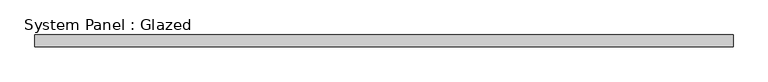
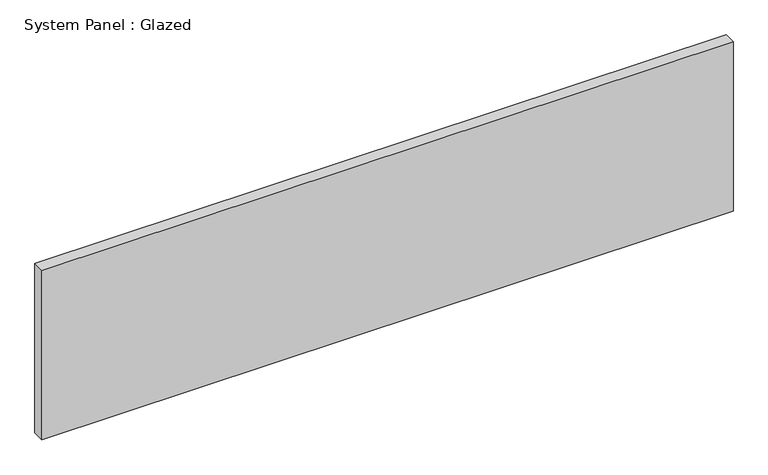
"""IFC4 building model written with IfcOpenShell, lengths in millimetres: plate geometry, System Panel : Glazed."""

import ifcopenshell
import ifcopenshell.guid

model = None  # the IFC model being written
_history = None  # IfcOwnerHistory: only IFC2X3 demands one
_inside = {}  # id of a spatial element -> (the spatial element, [elements in it])
_under = {}  # id of a project, library or spatial element -> (it, [spatial elements below it])
_declared = {}  # id of a project -> (the project, [libraries it declares])
_typed = {}  # id of a type object -> (the type object, [elements of that type])
_made_of = {}  # id of a material, layer set ... -> (it, [elements and type objects made of it])


def new_model(schema):
    """Start an empty IFC model of exactly this schema.

    Asked for "IFC4X3", IfcOpenShell would pick the latest addendum, in which some entities
    have other attributes; the version numbers below select the first issue.
    IFC2X3 requires an IfcOwnerHistory on every rooted entity: one is made here for all.
    """
    global model, _history
    if schema == "IFC4X3":
        model = ifcopenshell.file(schema_version=(4, 3, 0, 0))
    else:
        model = ifcopenshell.file(schema=schema)
    _inside.clear()
    _under.clear()
    _declared.clear()
    _typed.clear()
    _made_of.clear()
    _history = None
    if model.schema == "IFC2X3":
        org = make("IfcOrganization", Name="unknown")
        user = make(
            "IfcPersonAndOrganization",
            ThePerson=make("IfcPerson", FamilyName="unknown"),
            TheOrganization=org,
        )
        app = make(
            "IfcApplication",
            ApplicationDeveloper=org,
            Version="unknown",
            ApplicationFullName="unknown",
            ApplicationIdentifier="unknown",
        )
        _history = make(
            "IfcOwnerHistory",
            OwningUser=user,
            OwningApplication=app,
            ChangeAction="ADDED",
            CreationDate=0,
        )
    return model


def make(cls, **values):
    """One entity of the class cls with the attributes given. An attribute that is None is left unset."""
    return model.create_entity(
        cls, **{name: value for name, value in values.items() if value is not None}
    )


def rooted(cls, **values):
    """An entity with a GlobalId (a new one), such as an element, a storey or a relation."""
    return make(cls, GlobalId=ifcopenshell.guid.new(), OwnerHistory=_history, **values)


def si_unit(unit_type, name, prefix=None):
    """IfcSIUnit, for example si_unit("LENGTHUNIT", "METRE", prefix="MILLI")."""
    return make("IfcSIUnit", UnitType=unit_type, Prefix=prefix, Name=name)


def assignment(units):
    """IfcUnitAssignment: the units of a project."""
    return None if units is None else make("IfcUnitAssignment", Units=units)


def point(xyz):
    """IfcCartesianPoint."""
    return None if xyz is None else make("IfcCartesianPoint", Coordinates=xyz)


def direction(xyz):
    """IfcDirection."""
    return None if xyz is None else make("IfcDirection", DirectionRatios=xyz)


def frame(location, z_axis=None, x_axis=None):
    """IfcAxis2Placement3D, a coordinate frame: its origin and axes. An axis left out is left unset."""
    return make(
        "IfcAxis2Placement3D",
        Location=point(location),
        Axis=direction(z_axis),
        RefDirection=direction(x_axis),
    )


def origin():
    """The frame at (0, 0, 0) with its axes left unset."""
    return frame((0.0, 0.0, 0.0))


def origin_with_axes():
    """The frame at (0, 0, 0) with the z axis (0, 0, 1) and the x axis (1, 0, 0) written out."""
    return frame((0.0, 0.0, 0.0), z_axis=(0.0, 0.0, 1.0), x_axis=(1.0, 0.0, 0.0))


def place(relative_to, where):
    """IfcLocalPlacement: puts the frame where relative to a parent placement (None: the world)."""
    return make(
        "IfcLocalPlacement", PlacementRelTo=relative_to, RelativePlacement=where
    )


def context(
    kind, dimensions, precision=None, world=None, true_north=None, identifier=None
):
    """IfcGeometricRepresentationContext, for example the 3D "Model" context."""
    return make(
        "IfcGeometricRepresentationContext",
        ContextIdentifier=identifier,
        ContextType=kind,
        CoordinateSpaceDimension=dimensions,
        Precision=precision,
        WorldCoordinateSystem=world,
        TrueNorth=true_north,
    )


def project(units=None, contexts=None):
    """IfcProject with its units and contexts."""
    return rooted(
        "IfcProject",
        Name="project",
        RepresentationContexts=contexts,
        UnitsInContext=assignment(units),
    )


def spatial(cls, under=None, at=None, **own):
    """A site, building, storey or space (cls), placed at a placement, below another one or the project."""
    s = rooted(cls, ObjectPlacement=at, **own)
    if under is not None:
        _under.setdefault(under.id(), (under, []))[1].append(s)
    return s


def polyline(points):
    """IfcPolyline through the points."""
    return make("IfcPolyline", Points=[point(p) for p in points])


def outline(outer, holes=None, kind="AREA"):
    """IfcArbitraryClosedProfileDef: a profile drawn as a closed curve; with holes, ...WithVoids."""
    if holes is None:
        return make("IfcArbitraryClosedProfileDef", ProfileType=kind, OuterCurve=outer)
    return make(
        "IfcArbitraryProfileDefWithVoids",
        ProfileType=kind,
        OuterCurve=outer,
        InnerCurves=holes,
    )


def extrude(swept, where, along, depth):
    """IfcExtrudedAreaSolid: the profile swept, set in the frame where, extruded along a direction by depth."""
    return make(
        "IfcExtrudedAreaSolid",
        SweptArea=swept,
        Position=where,
        ExtrudedDirection=direction(along),
        Depth=depth,
    )


def shape(context_of_items, identifier, shape_type, items):
    """IfcShapeRepresentation: the items that make up one representation, for example the "Body"."""
    return make(
        "IfcShapeRepresentation",
        ContextOfItems=context_of_items,
        RepresentationIdentifier=identifier,
        RepresentationType=shape_type,
        Items=items,
    )


def source(mapping_origin, context_of_items, identifier, shape_type, items):
    """IfcRepresentationMap: a shape defined once, which mapped items show again and again."""
    return make(
        "IfcRepresentationMap",
        MappingOrigin=mapping_origin,
        MappedRepresentation=shape(context_of_items, identifier, shape_type, items),
    )


def transform(
    local_origin,
    x_axis=None,
    y_axis=None,
    z_axis=None,
    scale=None,
    scale2=None,
    scale3=None,
    uniform=True,
):
    """IfcCartesianTransformationOperator3D, or its non-uniform kind. x_axis, y_axis, z_axis: its Axis1, 2, 3."""
    if uniform:
        return make(
            "IfcCartesianTransformationOperator3D",
            Axis1=direction(x_axis),
            Axis2=direction(y_axis),
            LocalOrigin=point(local_origin),
            Scale=scale,
            Axis3=direction(z_axis),
        )
    return make(
        "IfcCartesianTransformationOperator3DnonUniform",
        Axis1=direction(x_axis),
        Axis2=direction(y_axis),
        LocalOrigin=point(local_origin),
        Scale=scale,
        Axis3=direction(z_axis),
        Scale2=scale2,
        Scale3=scale3,
    )


def mapped(mapping_source, mapping_target):
    """IfcMappedItem: shows the shape of a source again, moved by a transform."""
    return make(
        "IfcMappedItem", MappingSource=mapping_source, MappingTarget=mapping_target
    )


def made_of(thing, what):
    """Note that an element or type object is made of a material, layer set ...; save() writes the relation."""
    if what is not None:
        _made_of.setdefault(what.id(), (what, []))[1].append(thing)
    return thing


def element(
    cls,
    number,
    at=None,
    inside=None,
    cuts=None,
    type_object=None,
    material=None,
    context=None,
    identifier="Body",
    shape_type=None,
    held_by="IfcProductDefinitionShape",
    body=None,
    shapes=None,
    **own,
):
    """One element of the class cls, such as IfcWall. Its Tag is "e" and its number.

    at: its placement. inside: the storey or other place that contains it. cuts: it is an
    opening in that element (IfcRelVoidsElement). A single representation is given by context,
    identifier, shape_type and body (its items); several are given by shapes. held_by: the class
    of the entity that holds the representations. save() writes the other relations.
    """
    e = rooted(cls, Tag="e%d" % number, ObjectPlacement=at, **own)
    if body is not None:
        shapes = [shape(context, identifier, shape_type, body)]
    if shapes is not None:
        e.Representation = make(held_by, Representations=shapes)
    if inside is not None:
        _inside.setdefault(inside.id(), (inside, []))[1].append(e)
    if cuts is not None:
        rooted(
            "IfcRelVoidsElement", RelatingBuildingElement=cuts, RelatedOpeningElement=e
        )
    if type_object is not None:
        _typed.setdefault(type_object.id(), (type_object, []))[1].append(e)
    return made_of(e, material)


def aggregate(whole, parts):
    """IfcRelAggregates: a whole, such as a stair, and the parts it consists of."""
    return rooted("IfcRelAggregates", RelatingObject=whole, RelatedObjects=parts)


def save(model, path):
    """Write the relations noted so far, then the file.

    IfcRelAggregates (storeys below a building ...), IfcRelContainedInSpatialStructure (elements
    in a storey), IfcRelDefinesByType, IfcRelAssociatesMaterial and IfcRelDeclares: one each for
    every whole, place, type object, material and project.
    """
    for whole, parts in _under.values():
        aggregate(whole, parts)
    for where, things in _inside.values():
        rooted(
            "IfcRelContainedInSpatialStructure",
            RelatedElements=things,
            RelatingStructure=where,
        )
    for kind, things in _typed.values():
        rooted("IfcRelDefinesByType", RelatedObjects=things, RelatingType=kind)
    for what, things in _made_of.values():
        rooted("IfcRelAssociatesMaterial", RelatedObjects=things, RelatingMaterial=what)
    for by, libraries in _declared.values():
        rooted("IfcRelDeclares", RelatingContext=by, RelatedDefinitions=libraries)
    model.write(path)


def system_panel_glazed_e86309c8(model_context):
    return source(origin(), model_context, "Body", "SweptSolid", [
        extrude(outline(polyline([(736.9999999, -49.5), (-736.9999999, -49.5), (-736.9999999, -24.5), (736.9999999, -24.5), (736.9999999, -49.5)])), origin_with_axes(), (0.0, 0.0, 1.0), 382.2),
    ])


if __name__ == "__main__":
    model = new_model("IFC4")
    model_context = context("Model", 3, world=origin())
    ifc_project = project(units=[si_unit("LENGTHUNIT", "METRE", prefix="MILLI")], contexts=[model_context])
    site = spatial("IfcSite", under=ifc_project)
    building = spatial("IfcBuilding", under=site)
    placement = place(None, origin())
    system_panel_glazed_shape = system_panel_glazed_e86309c8(model_context)
    element("IfcPlate", 1, ObjectType="System Panel : Glazed", at=placement, inside=building, context=model_context, shape_type="MappedRepresentation", body=[
        mapped(system_panel_glazed_shape, transform((0.0, 0.0, 0.0), x_axis=(1.0, 0.0, 0.0), y_axis=(0.0, 1.0, 0.0), z_axis=(0.0, 0.0, 1.0))),
    ])
    save(model, "model.ifc")
